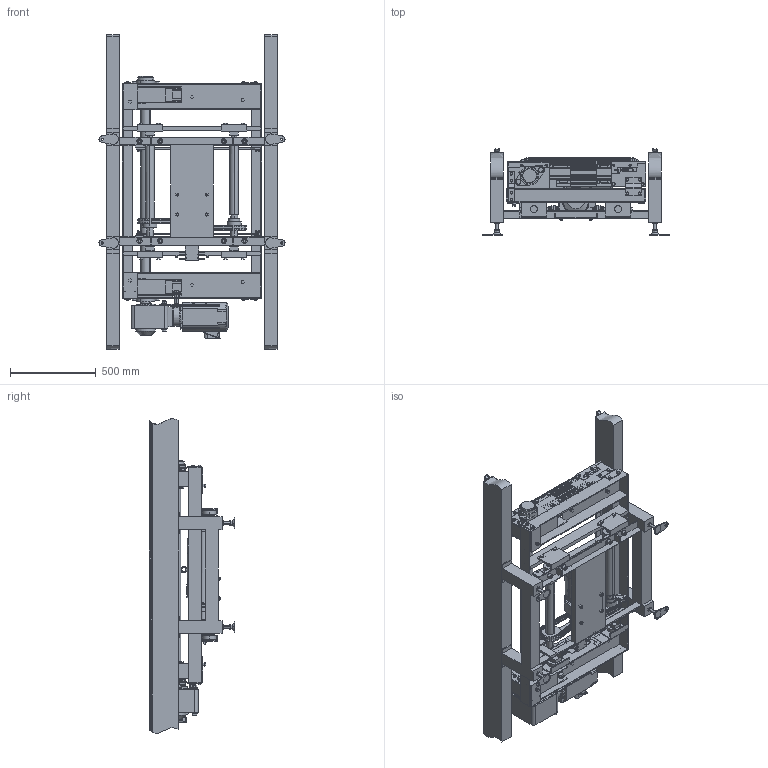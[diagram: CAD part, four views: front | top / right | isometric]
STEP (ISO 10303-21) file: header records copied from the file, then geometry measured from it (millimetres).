
FILE_DESCRIPTION( (''), '2;1');
FILE_NAME ('WEB-MHC-LTR-R-CAM.stp','2025-07-02T10:46:41',(''),(''),'spGate 20.6.2 (****-****-****-****)','','');
FILE_SCHEMA (('AUTOMOTIVE_DESIGN'));
Length unit declared in the file: millimetre
Products named in the file (51): WEB-MHC-LTR-R-CAM; TEMP_X_T-prt0; TEMP_X_T-prt1; TEMP_X_T-prt2; TEMP_X_T-prt3; TEMP_X_T-prt4; TEMP_X_T-prt5; TEMP_X_T-prt6; TEMP_X_T-prt7; TEMP_X_T-prt8; TEMP_X_T-prt9; TEMP_X_T-prt10; TEMP_X_T-prt11; TEMP_X_T-prt12; TEMP_X_T-prt13; TEMP_X_T-prt14; TEMP_X_T-prt15; TEMP_X_T-prt16; TEMP_X_T-prt17; TEMP_X_T-prt18; TEMP_X_T-prt19; TEMP_X_T-prt20; TEMP_X_T-prt21; TEMP_X_T-prt22; TEMP_X_T-prt23; TEMP_X_T-prt24; TEMP_X_T-prt25; TEMP_X_T-prt26; TEMP_X_T-prt27; TEMP_X_T-prt28; TEMP_X_T-prt29; TEMP_X_T-prt30; TEMP_X_T-prt31; TEMP_X_T-prt32; TEMP_X_T-prt33; TEMP_X_T-prt34; TEMP_X_T-prt35; TEMP_X_T-prt36; TEMP_X_T-prt37; TEMP_X_T-prt38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
Assembly tree (50 placements, depth 2):
  WEB-MHC-LTR-R-CAM
    TEMP_X_T-prt0
    TEMP_X_T-prt1
    TEMP_X_T-prt2
    TEMP_X_T-prt3
    TEMP_X_T-prt4
    TEMP_X_T-prt5
    TEMP_X_T-prt6
    TEMP_X_T-prt7
    TEMP_X_T-prt8
    TEMP_X_T-prt9
    TEMP_X_T-prt10
    TEMP_X_T-prt11
    TEMP_X_T-prt12
    TEMP_X_T-prt13
    TEMP_X_T-prt14
    TEMP_X_T-prt15
    TEMP_X_T-prt16
    TEMP_X_T-prt17
    TEMP_X_T-prt18
    TEMP_X_T-prt19
    TEMP_X_T-prt20
    TEMP_X_T-prt21
    TEMP_X_T-prt22
    TEMP_X_T-prt23
    TEMP_X_T-prt24
    TEMP_X_T-prt25
    TEMP_X_T-prt26
    TEMP_X_T-prt27
    TEMP_X_T-prt28
    TEMP_X_T-prt29
    TEMP_X_T-prt30
    TEMP_X_T-prt31
    TEMP_X_T-prt32
    TEMP_X_T-prt33
    TEMP_X_T-prt34
    TEMP_X_T-prt35
    TEMP_X_T-prt36
    TEMP_X_T-prt37
    TEMP_X_T-prt38
    TEMP_X_T-prt39
    TEMP_X_T-prt40
    TEMP_X_T-prt41
    TEMP_X_T-prt42
    TEMP_X_T-prt43
    TEMP_X_T-prt44
    TEMP_X_T-prt45
    TEMP_X_T-prt46
    TEMP_X_T-prt47
    TEMP_X_T-prt48
    TEMP_X_T-prt49
Bounding box: 1084 x 500.1 x 1832.41 mm (x, y, z)
Volume: 118634831.4 mm3; surface area: 10347411.4 mm2
Topology: 50 solids, 50 shells, 5037 faces, 12480 edges, 8107 vertices
Faces by surface type: plane 3952, cylinder 1001, bspline 83, sphere 1
Full cylindrical faces by diameter (mm): 5 x1, 6.6 x1, 6.8 x8, 8 x8, 12.2 x32, 12.5 x16, 14.2 x4, 15.4 x13, 16 x2, 16.2 x4, 17 x12, 18 x2, 18.4 x32, 21 x32, 22 x2, 24 x1, 28 x3, 28.096 x2, 30 x3, 65 x1, 110 x1, 112 x1, 114 x1
Entity records: 257064 total; most frequent: CARTESIAN_POINT 31945, DIRECTION 25021, ORIENTED_EDGE 24944, COLOUR_RGB 17559, PRESENTATION_STYLE_ASSIGNMENT 17559, STYLED_ITEM 17559, EDGE_CURVE 12472, DRAUGHTING_PRE_DEFINED_CURVE_FONT 12472
